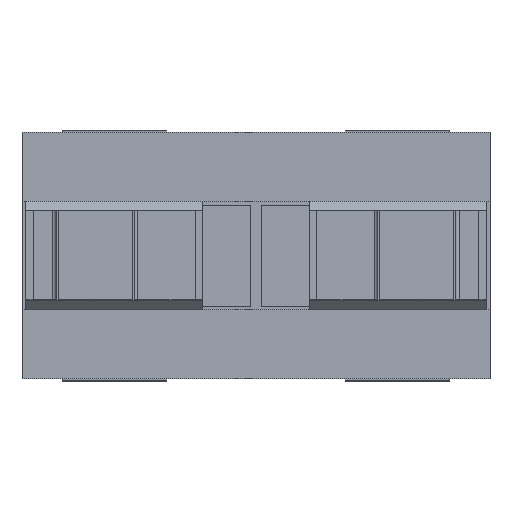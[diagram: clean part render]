
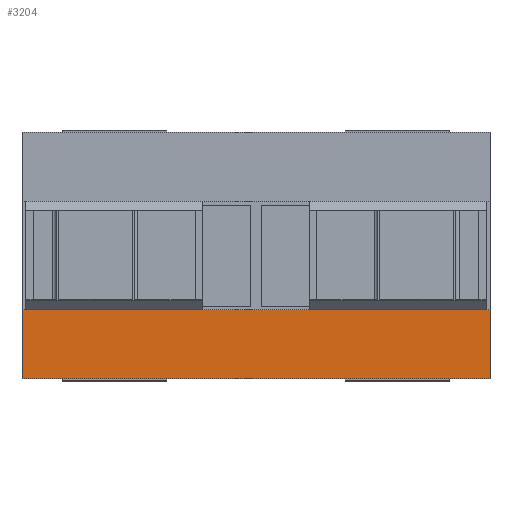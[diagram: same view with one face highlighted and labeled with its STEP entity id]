
A CAD part, top view. The second image highlights one B-rep face of the part: STEP entity #3204.
In plain terms, the highlighted planar face has unit normal (0, 0, 1).
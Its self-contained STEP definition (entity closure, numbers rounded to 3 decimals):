
#212=LINE('',#4814,#570);
#308=LINE('',#5042,#666);
#309=LINE('',#5044,#667);
#310=LINE('',#5046,#668);
#570=VECTOR('',#3832,1000.);
#666=VECTOR('',#4042,1000.);
#667=VECTOR('',#4043,1000.);
#668=VECTOR('',#4044,1000.);
#1160=ORIENTED_EDGE('',*,*,#1948,.T.);
#1161=ORIENTED_EDGE('',*,*,#1949,.F.);
#1162=ORIENTED_EDGE('',*,*,#1950,.F.);
#1163=ORIENTED_EDGE('',*,*,#1828,.T.);
#1828=EDGE_CURVE('',#2251,#2250,#212,.T.);
#1948=EDGE_CURVE('',#2250,#2326,#308,.T.);
#1949=EDGE_CURVE('',#2327,#2326,#309,.T.);
#1950=EDGE_CURVE('',#2251,#2327,#310,.T.);
#2250=VERTEX_POINT('',#4813);
#2251=VERTEX_POINT('',#4815);
#2326=VERTEX_POINT('',#5043);
#2327=VERTEX_POINT('',#5045);
#2596=EDGE_LOOP('',(#1160,#1161,#1162,#1163));
#2838=FACE_BOUND('',#2596,.T.);
#3062=PLANE('',#3451);
#3204=ADVANCED_FACE('',(#2838),#3062,.F.);
#3451=AXIS2_PLACEMENT_3D('',#5041,#4040,#4041);
#3832=DIRECTION('',(-1.,0.,0.));
#4040=DIRECTION('',(0.,0.,-1.));
#4041=DIRECTION('',(-1.,0.,0.));
#4042=DIRECTION('',(0.,-1.,0.));
#4043=DIRECTION('',(-1.,0.,0.));
#4044=DIRECTION('',(0.,-1.,0.));
#4813=CARTESIAN_POINT('',(-31.5,-7.3,74.6));
#4814=CARTESIAN_POINT('',(31.5,-7.3,74.6));
#4815=CARTESIAN_POINT('',(31.5,-7.3,74.6));
#5041=CARTESIAN_POINT('',(31.5,-7.3,74.6));
#5042=CARTESIAN_POINT('',(-31.5,-7.3,74.6));
#5043=CARTESIAN_POINT('',(-31.5,-16.6,74.6));
#5044=CARTESIAN_POINT('',(31.5,-16.6,74.6));
#5045=CARTESIAN_POINT('',(31.5,-16.6,74.6));
#5046=CARTESIAN_POINT('',(31.5,-7.3,74.6));
